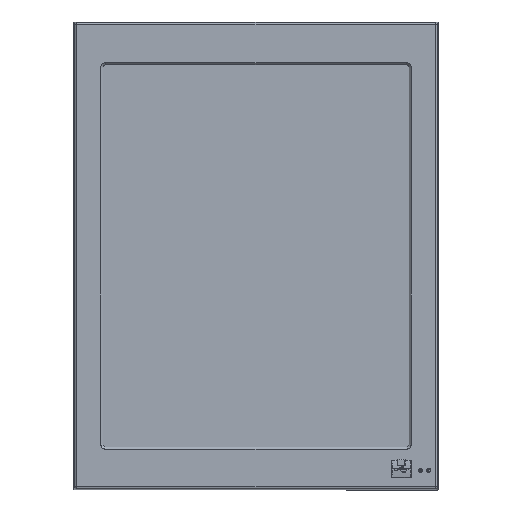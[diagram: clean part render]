
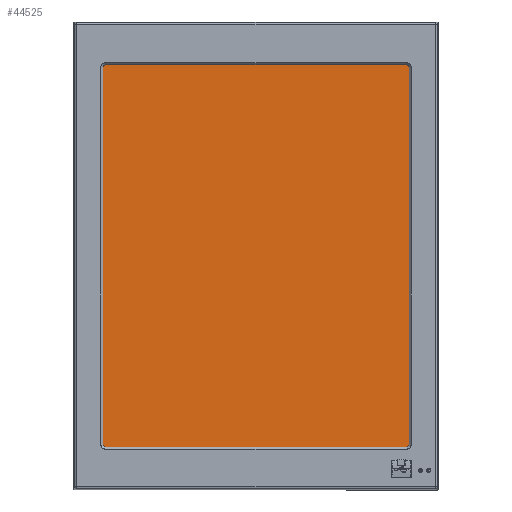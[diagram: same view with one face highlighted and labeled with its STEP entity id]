
A CAD part, top view. The second image highlights one B-rep face of the part: STEP entity #44525.
In plain terms, the highlighted planar face has unit normal (0, 0, 1).
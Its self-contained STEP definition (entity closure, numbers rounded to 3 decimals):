
#4514 = VECTOR ( 'NONE', #14163, 1000. ) ;
#4985 = CARTESIAN_POINT ( 'NONE',  ( 7.5, 314., 0.5 ) ) ;
#5795 = CARTESIAN_POINT ( 'NONE',  ( 7.5, 314., 0.5 ) ) ;
#6381 = LINE ( 'NONE', #67995, #35700 ) ;
#6524 = FACE_OUTER_BOUND ( 'NONE', #30193, .T. ) ;
#7888 = CARTESIAN_POINT ( 'NONE',  ( 0., 0., 0.5 ) ) ;
#9166 = ORIENTED_EDGE ( 'NONE', *, *, #75407, .T. ) ;
#13789 = DIRECTION ( 'NONE',  ( 1., 0., 0. ) ) ;
#14163 = DIRECTION ( 'NONE',  ( 0., 1., 0. ) ) ;
#19621 = LINE ( 'NONE', #5795, #49017 ) ;
#21126 = CARTESIAN_POINT ( 'NONE',  ( 387.5, 314., 0.5 ) ) ;
#24473 = DIRECTION ( 'NONE',  ( -1., 0., 0. ) ) ;
#25119 = ORIENTED_EDGE ( 'NONE', *, *, #51187, .T. ) ;
#30193 = EDGE_LOOP ( 'NONE', ( #58980, #67185, #25119, #9166 ) ) ;
#31589 = VERTEX_POINT ( 'NONE', #55877 ) ;
#32171 = AXIS2_PLACEMENT_3D ( 'NONE', #7888, #48905, #13789 ) ;
#35700 = VECTOR ( 'NONE', #73882, 1000. ) ;
#40687 = EDGE_CURVE ( 'NONE', #68207, #31589, #19621, .T. ) ;
#40887 = CARTESIAN_POINT ( 'NONE',  ( 387.5, 9., 0.5 ) ) ;
#41764 = CARTESIAN_POINT ( 'NONE',  ( 7.5, 314., 0.5 ) ) ;
#44525 = ADVANCED_FACE ( 'NONE', ( #6524 ), #60498, .T. ) ;
#48905 = DIRECTION ( 'NONE',  ( 0., 0., 1. ) ) ;
#49017 = VECTOR ( 'NONE', #52732, 1000. ) ;
#49281 = CARTESIAN_POINT ( 'NONE',  ( 387.5, 314., 0.5 ) ) ;
#49484 = LINE ( 'NONE', #49281, #4514 ) ;
#51187 = EDGE_CURVE ( 'NONE', #58364, #65325, #49484, .T. ) ;
#52732 = DIRECTION ( 'NONE',  ( 0., -1., 0. ) ) ;
#55877 = CARTESIAN_POINT ( 'NONE',  ( 7.5, 9., 0.5 ) ) ;
#57159 = EDGE_CURVE ( 'NONE', #31589, #58364, #6381, .T. ) ;
#58283 = VECTOR ( 'NONE', #24473, 1000. ) ;
#58364 = VERTEX_POINT ( 'NONE', #40887 ) ;
#58980 = ORIENTED_EDGE ( 'NONE', *, *, #40687, .T. ) ;
#60498 = PLANE ( 'NONE',  #32171 ) ;
#65325 = VERTEX_POINT ( 'NONE', #21126 ) ;
#67185 = ORIENTED_EDGE ( 'NONE', *, *, #57159, .T. ) ;
#67995 = CARTESIAN_POINT ( 'NONE',  ( 7.5, 9., 0.5 ) ) ;
#68207 = VERTEX_POINT ( 'NONE', #4985 ) ;
#73882 = DIRECTION ( 'NONE',  ( 1., 0., 0. ) ) ;
#75407 = EDGE_CURVE ( 'NONE', #65325, #68207, #75661, .T. ) ;
#75661 = LINE ( 'NONE', #41764, #58283 ) ;
